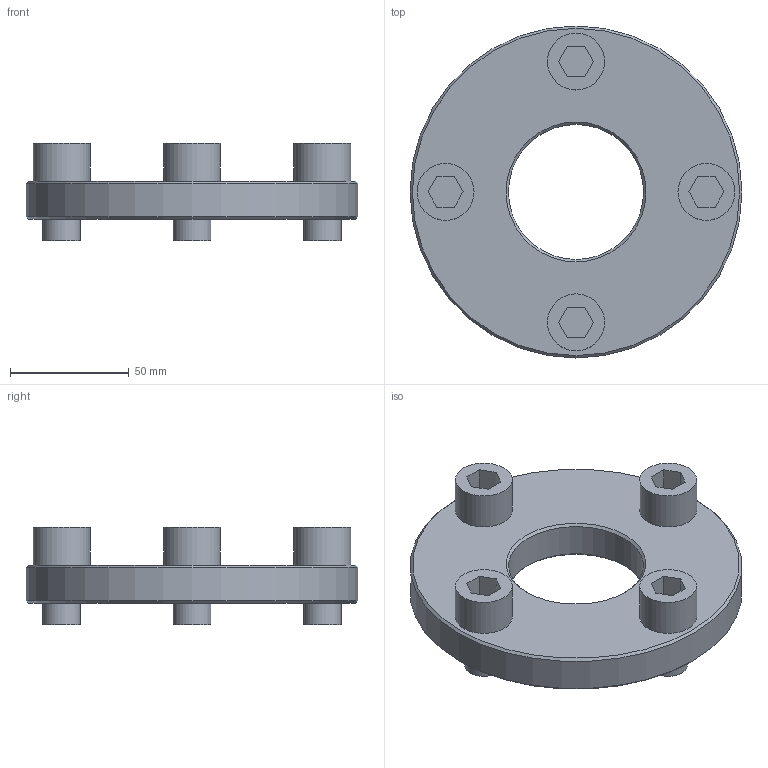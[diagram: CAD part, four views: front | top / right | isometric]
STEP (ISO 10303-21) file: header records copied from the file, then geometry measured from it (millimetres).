
FILE_DESCRIPTION(('Open CASCADE Model'),'2;1');
FILE_NAME('Open CASCADE Shape Model','2026-10-30T15:16:08',('Author'),( 'Open CASCADE'),'Open CASCADE STEP processor 7.9','Open CASCADE 7.9' ,'Unknown');
FILE_SCHEMA(('AUTOMOTIVE_DESIGN { 1 0 10303 214 1 1 1 1 }'));
Length unit declared in the file: millimetre
Products named in the file (6): d4e71178-d474-11f1-baaa-0551e613c3ae; flange_dn50; m16_bolt_0; m16_bolt_1; m16_bolt_2; m16_bolt_3
Assembly tree (5 placements, depth 2):
  d4e71178-d474-11f1-baaa-0551e613c3ae
    flange_dn50
    m16_bolt_0
    m16_bolt_1
    m16_bolt_2
    m16_bolt_3
Bounding box: 140 x 140 x 41 mm (x, y, z)
Volume: 231943.8 mm3; surface area: 51363.9 mm2
Topology: 5 solids, 5 shells, 68 faces, 138 edges, 88 vertices
Faces by surface type: plane 42, cylinder 14, cone 12
Full cylindrical faces by diameter (mm): 16 x4, 18 x4, 24 x4, 57 x1, 140 x1
Entity records: 3720 total; most frequent: CARTESIAN_POINT 660, DIRECTION 568, LINE 322, VECTOR 322, ORIENTED_EDGE 276, PCURVE 276, DEFINITIONAL_REPRESENTATION 276, EDGE_CURVE 138
